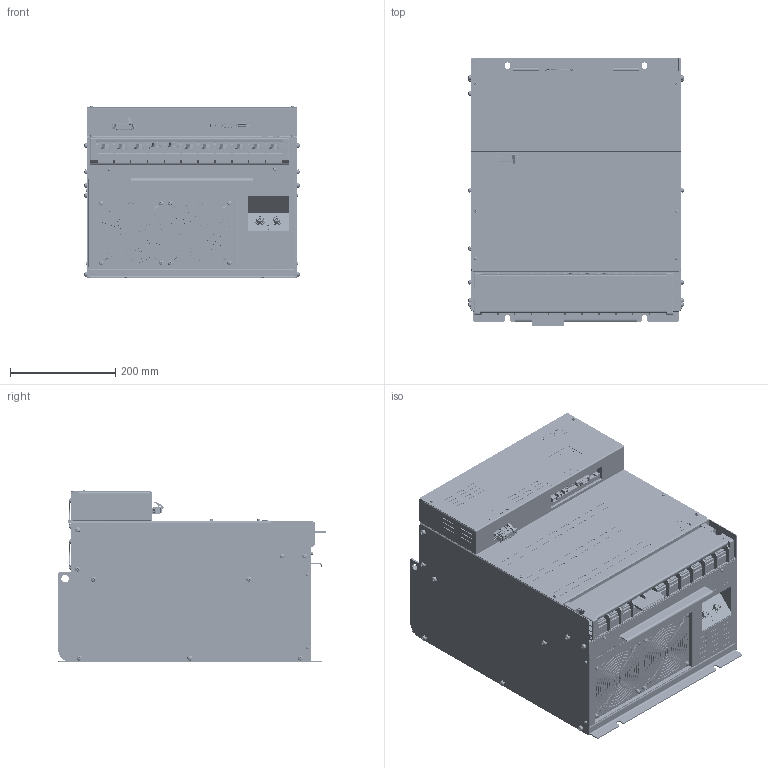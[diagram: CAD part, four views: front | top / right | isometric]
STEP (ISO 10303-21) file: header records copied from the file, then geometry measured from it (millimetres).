
FILE_DESCRIPTION (( 'STEP AP203' ), '1' );
FILE_NAME ('NCR-HE2-3_373#SE-83782.STEP', '2021-07-08T05:39:15', ( '' ), ( '' ), 'SwSTEP 2.0', 'SolidWorks 2018', '' );
FILE_SCHEMA (( 'CONFIG_CONTROL_DESIGN' ));
Products named in the file (1): NCR-HE2-3_373#SE-83782
Bounding box: 409.06 x 508 x 327.95 mm (x, y, z)
Volume: 50152985 mm3; surface area: 1547130.6 mm2
Topology: 4 solids, 44 shells, 18337 faces, 50489 edges, 32682 vertices
Faces by surface type: plane 11924, cylinder 2981, bspline 1885, cone 1207, torus 250, sphere 90
Entity records: 646328 total; most frequent: CARTESIAN_POINT 186244, ORIENTED_EDGE 100766, DIRECTION 88365, EDGE_CURVE 50383, VECTOR 34689, LINE 34689, VERTEX_POINT 32682, AXIS2_PLACEMENT_3D 26838
